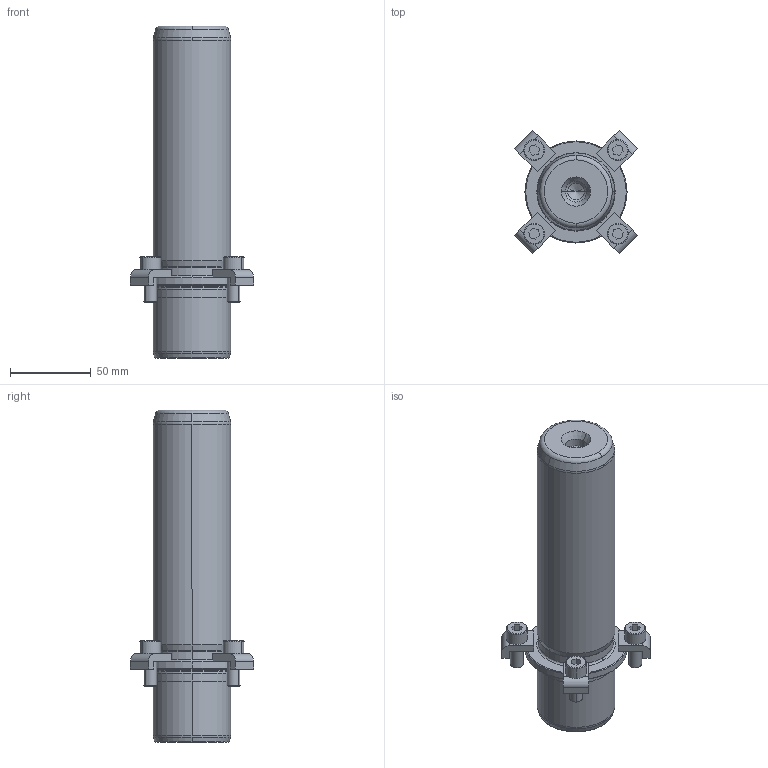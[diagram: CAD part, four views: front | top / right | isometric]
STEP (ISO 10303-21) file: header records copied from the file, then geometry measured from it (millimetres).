
FILE_DESCRIPTION((''),'2;1');
FILE_NAME('P21_048_160.stp','2008-12-23T13:37:53',(''),(''),'Mechanical Desktop 2009','Mechanical Desktop 2009',', , ');
FILE_SCHEMA(('CONFIG_CONTROL_DESIGN'));
Length unit declared in the file: millimetre
Products named in the file (2): Product; blmdl1
Assembly tree (1 placements, depth 2):
  Product
    blmdl1
Bounding box: 76.01 x 76.01 x 205 mm (x, y, z)
Volume: 380031.2 mm3; surface area: 48329 mm2
Topology: 9 solids, 9 shells, 195 faces, 477 edges, 309 vertices
Faces by surface type: plane 77, cylinder 52, cone 34, torus 16, bspline 16
Entity records: 6547 total; most frequent: CARTESIAN_POINT 1683, DIRECTION 1078, ORIENTED_EDGE 946, EDGE_CURVE 473, AXIS2_PLACEMENT_3D 424, VERTEX_POINT 309, CIRCLE 243, VECTOR 230
